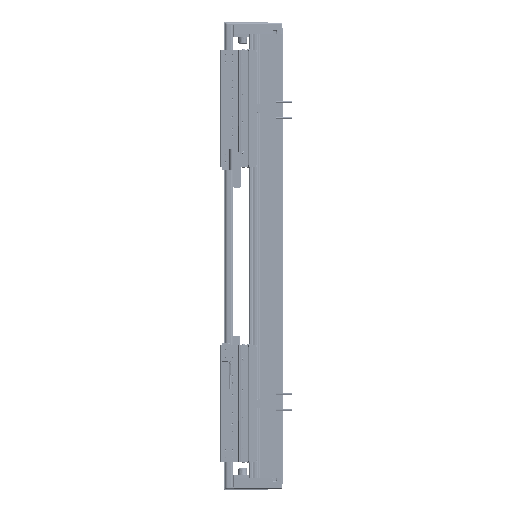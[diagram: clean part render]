
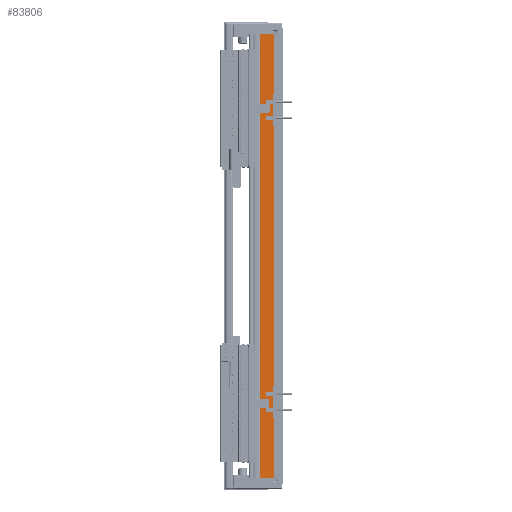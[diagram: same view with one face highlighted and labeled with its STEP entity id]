
A CAD part, left-side view. The second image highlights one B-rep face of the part: STEP entity #83806.
In plain terms, the highlighted planar face has unit normal (-1, 0, 0).
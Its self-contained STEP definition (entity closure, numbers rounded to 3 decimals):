
#2322 = VERTEX_POINT ( 'NONE', #111192 ) ;
#2800 = VERTEX_POINT ( 'NONE', #93797 ) ;
#3414 = EDGE_CURVE ( 'NONE', #98169, #2800, #109637, .T. ) ;
#8193 = CARTESIAN_POINT ( 'NONE',  ( -97.5, 36.95, 360. ) ) ;
#23662 = CARTESIAN_POINT ( 'NONE',  ( -97.5, 14.45, -360. ) ) ;
#24883 = VECTOR ( 'NONE', #79614, 1000. ) ;
#33375 = PLANE ( 'NONE',  #75090 ) ;
#36154 = EDGE_CURVE ( 'NONE', #98169, #2322, #49370, .T. ) ;
#42804 = VECTOR ( 'NONE', #139719, 1000. ) ;
#43689 = CARTESIAN_POINT ( 'NONE',  ( -97.5, 36.95, 360. ) ) ;
#46661 = ORIENTED_EDGE ( 'NONE', *, *, #81522, .F. ) ;
#48929 = VERTEX_POINT ( 'NONE', #23662 ) ;
#49370 = LINE ( 'NONE', #117516, #42804 ) ;
#55604 = FACE_OUTER_BOUND ( 'NONE', #87581, .T. ) ;
#59593 = LINE ( 'NONE', #70736, #24883 ) ;
#67541 = ORIENTED_EDGE ( 'NONE', *, *, #3414, .T. ) ;
#69653 = CARTESIAN_POINT ( 'NONE',  ( -97.5, 36.95, 360. ) ) ;
#70736 = CARTESIAN_POINT ( 'NONE',  ( -97.5, 14.45, 360. ) ) ;
#75090 = AXIS2_PLACEMENT_3D ( 'NONE', #69653, #102983, #100804 ) ;
#79614 = DIRECTION ( 'NONE',  ( 0., 0., -1. ) ) ;
#81522 = EDGE_CURVE ( 'NONE', #2322, #48929, #59593, .T. ) ;
#83806 = ADVANCED_FACE ( 'NONE', ( #55604 ), #33375, .F. ) ;
#84618 = DIRECTION ( 'NONE',  ( 0., -1., 0. ) ) ;
#86003 = ORIENTED_EDGE ( 'NONE', *, *, #100531, .T. ) ;
#86057 = CARTESIAN_POINT ( 'NONE',  ( -97.5, 36.95, -360. ) ) ;
#86668 = DIRECTION ( 'NONE',  ( 0., 0., -1. ) ) ;
#87581 = EDGE_LOOP ( 'NONE', ( #86003, #46661, #115658, #67541 ) ) ;
#93797 = CARTESIAN_POINT ( 'NONE',  ( -97.5, 36.95, -360. ) ) ;
#95008 = LINE ( 'NONE', #86057, #122992 ) ;
#98169 = VERTEX_POINT ( 'NONE', #43689 ) ;
#100531 = EDGE_CURVE ( 'NONE', #2800, #48929, #95008, .T. ) ;
#100804 = DIRECTION ( 'NONE',  ( 0., 1., 0. ) ) ;
#102983 = DIRECTION ( 'NONE',  ( 1., 0., 0. ) ) ;
#109637 = LINE ( 'NONE', #8193, #124387 ) ;
#111192 = CARTESIAN_POINT ( 'NONE',  ( -97.5, 14.45, 360. ) ) ;
#115658 = ORIENTED_EDGE ( 'NONE', *, *, #36154, .F. ) ;
#117516 = CARTESIAN_POINT ( 'NONE',  ( -97.5, 36.95, 360. ) ) ;
#122992 = VECTOR ( 'NONE', #84618, 1000. ) ;
#124387 = VECTOR ( 'NONE', #86668, 1000. ) ;
#139719 = DIRECTION ( 'NONE',  ( 0., -1., 0. ) ) ;
